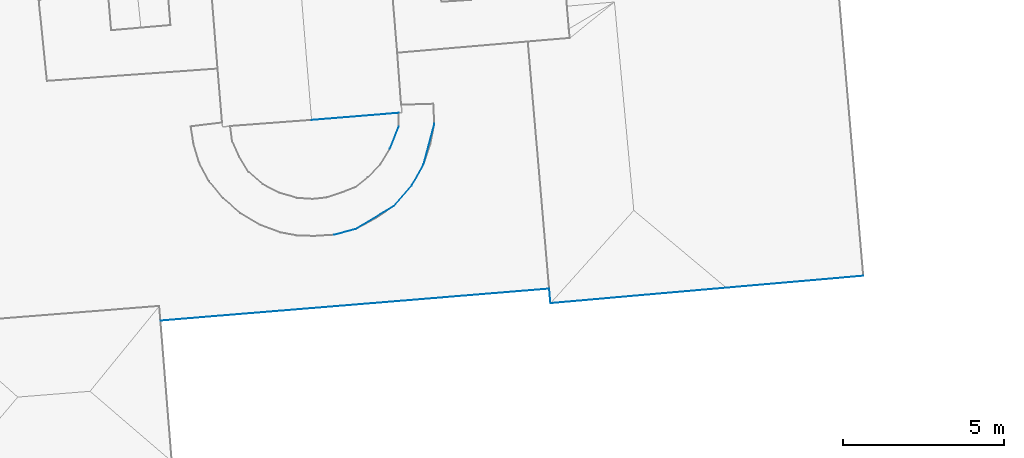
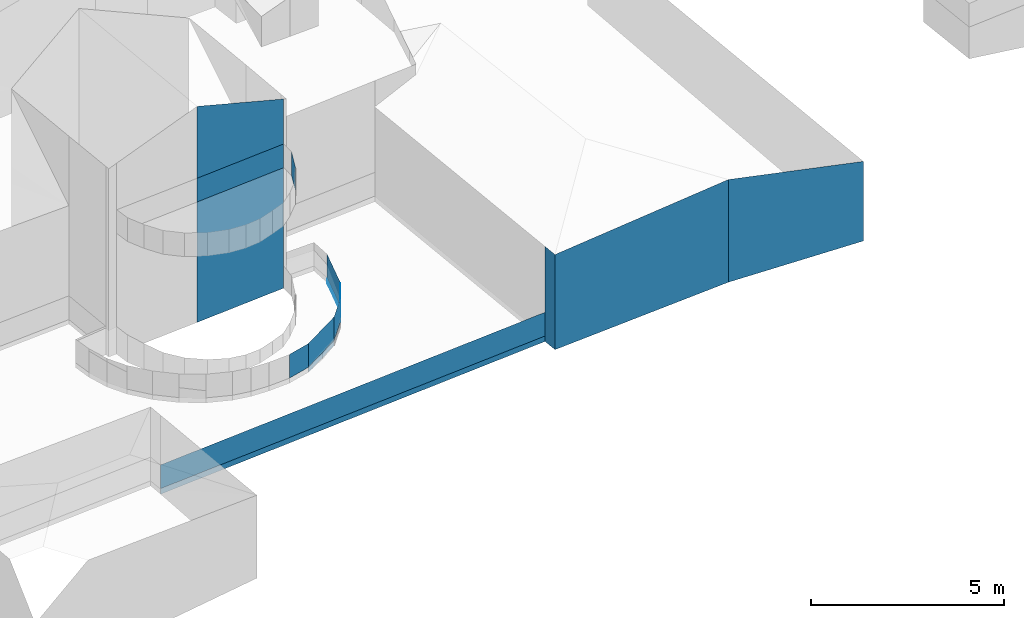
# Not in any storey, part 21 of 59: 23 walls.
"""IFC4 building model written with IfcOpenShell, lengths in metres."""

from ifc_helpers import new_model, entity, si_unit, converted_unit, frame, origin, place, context, subcontext, project, spatial, face_set, surface_model, element, save


model = new_model("IFC4")

# Units and contexts
model_context = context("Model", 3, precision=1e-05, world=origin())
body_context = subcontext(model_context, "Body", "Model", "MODEL_VIEW")
ifc_project = project(units=[converted_unit("PLANEANGLEUNIT", "DEGREE", entity("IfcRatioMeasure", 0.0174532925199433), si_unit("PLANEANGLEUNIT", "RADIAN"), dimensions=[0, 0, 0, 0, 0, 0, 0]), si_unit("AREAUNIT", "SQUARE_METRE"), si_unit("LENGTHUNIT", "METRE")], contexts=[model_context])

# Site, building
site_placement = place(None, origin())
site = spatial("IfcSite", under=ifc_project, at=site_placement, Name="_site")
building_placement = place(site_placement, origin())
building = spatial("IfcBuilding", under=site, at=building_placement, Name="_building")

# Walls
for number, where, name in (
    (1, (0.0, 0.0, 0.0), "Wall"),
    (2, (0.0, 0.0, 0.0), "Wall"),
):
    element("IfcWall", number, at=place(building_placement, frame(where)), inside=building, Name=name, PredefinedType="NOTDEFINED", context=body_context, shape_type="SurfaceModel", body=[
        surface_model("IfcFaceBasedSurfaceModel", [(240.57, 92.02, 229.832), (240.3, 91.34, 229.832), (240.3, 91.34, 230.582), (240.57, 92.02, 230.582)], [face_set([[[0, 1, 2, 3]]])]),
    ])
for number, where, name in (
    (3, (0.0, 0.0, 0.0), "Wall"),
    (4, (0.0, 0.0, 0.0), "Wall"),
):
    element("IfcWall", number, at=place(building_placement, frame(where)), inside=building, Name=name, PredefinedType="NOTDEFINED", context=body_context, shape_type="SurfaceModel", body=[
        surface_model("IfcFaceBasedSurfaceModel", [(240.58, 92.451, 229.819), (237.87, 92.23, 229.819), (237.87, 92.23, 230.569), (240.58, 92.451, 230.569)], [face_set([[[0, 1, 2, 3]]])]),
    ])
wall_1_placement = place(building_placement, origin())
element("IfcWall", 5, at=wall_1_placement, inside=building, Name="Wall", PredefinedType="NOTDEFINED", context=body_context, shape_type="SurfaceModel", body=[
    surface_model("IfcFaceBasedSurfaceModel", [(240.58, 92.451, 231.988), (237.87, 92.23, 232.84), (237.87, 92.23, 226.018), (240.58, 92.451, 226.017)], [face_set([[[0, 1, 2, 3]]])]),
])
wall_2_placement = place(building_placement, origin())
element("IfcWall", 6, at=wall_2_placement, inside=building, Name="Wall", PredefinedType="NOTDEFINED", context=body_context, shape_type="SurfaceModel", body=[
    surface_model("IfcFaceBasedSurfaceModel", [(250.73, 87.029, 229.18), (245.28, 86.551, 229.01), (245.28, 86.551, 226.007), (250.73, 87.029, 225.937)], [face_set([[[0, 1, 2, 3]]])]),
])
wall_3_placement = place(building_placement, origin())
element("IfcWall", 7, at=wall_3_placement, inside=building, Name="Wall", PredefinedType="NOTDEFINED", context=body_context, shape_type="SurfaceModel", body=[
    surface_model("IfcFaceBasedSurfaceModel", [(245.28, 86.551, 229.01), (245.24, 87.0, 229.009), (245.24, 87.0, 226.008), (245.28, 86.551, 226.007)], [face_set([[[0, 1, 2, 3]]])]),
])
wall_4_placement = place(building_placement, origin())
element("IfcWall", 8, at=wall_4_placement, inside=building, Name="Wall", PredefinedType="NOTDEFINED", context=body_context, shape_type="SurfaceModel", body=[
    surface_model("IfcFaceBasedSurfaceModel", [(254.98, 87.4, 228.04), (250.73, 87.029, 229.18), (250.73, 87.029, 225.937), (254.98, 87.4, 225.529)], [face_set([[[0, 1, 2, 3]]])]),
])
for number, where, name in (
    (9, (0.0, 0.0, 0.0), "Wall"),
    (10, (0.0, 0.0, 0.0), "Wall"),
):
    element("IfcWall", number, at=place(building_placement, frame(where)), inside=building, Name=name, PredefinedType="NOTDEFINED", context=body_context, shape_type="SurfaceModel", body=[
        surface_model("IfcFaceBasedSurfaceModel", [(245.24, 87.0, 226.18), (233.188, 86.01, 226.18), (233.188, 86.01, 226.93), (245.24, 87.0, 226.93)], [face_set([[[0, 1, 2, 3]]])]),
    ])
wall_5_placement = place(building_placement, origin())
element("IfcWall", 11, at=wall_5_placement, inside=building, Name="Wall", PredefinedType="NOTDEFINED", context=body_context, shape_type="SurfaceModel", body=[
    surface_model("IfcFaceBasedSurfaceModel", [(239.24, 88.85, 226.17), (238.57, 88.67, 226.17), (238.57, 88.67, 226.92), (239.24, 88.85, 226.92)], [face_set([[[0, 1, 2, 3]]])]),
])
wall_6_placement = place(building_placement, origin())
element("IfcWall", 12, at=wall_6_placement, inside=building, Name="Wall", PredefinedType="NOTDEFINED", context=body_context, shape_type="SurfaceModel", body=[
    surface_model("IfcFaceBasedSurfaceModel", [(240.42, 89.561, 226.17), (239.24, 88.85, 226.17), (239.24, 88.85, 226.92), (240.42, 89.561, 226.92)], [face_set([[[0, 1, 2, 3]]])]),
])
wall_7_placement = place(building_placement, origin())
element("IfcWall", 13, at=wall_7_placement, inside=building, Name="Wall", PredefinedType="NOTDEFINED", context=body_context, shape_type="SurfaceModel", body=[
    surface_model("IfcFaceBasedSurfaceModel", [(240.97, 90.189, 226.17), (240.42, 89.561, 226.17), (240.42, 89.561, 226.92), (240.97, 90.189, 226.92)], [face_set([[[0, 1, 2, 3]]])]),
])
wall_8_placement = place(building_placement, origin())
element("IfcWall", 14, at=wall_8_placement, inside=building, Name="Wall", PredefinedType="NOTDEFINED", context=body_context, shape_type="SurfaceModel", body=[
    surface_model("IfcFaceBasedSurfaceModel", [(241.34, 90.84, 226.17), (240.97, 90.189, 226.17), (240.97, 90.189, 226.92), (241.34, 90.84, 226.92)], [face_set([[[0, 1, 2, 3]]])]),
])
wall_9_placement = place(building_placement, origin())
element("IfcWall", 15, at=wall_9_placement, inside=building, Name="Wall", PredefinedType="NOTDEFINED", context=body_context, shape_type="SurfaceModel", body=[
    surface_model("IfcFaceBasedSurfaceModel", [(241.68, 92.109, 226.17), (241.34, 90.84, 226.17), (241.34, 90.84, 226.92), (241.68, 92.109, 226.92)], [face_set([[[0, 1, 2, 3]]])]),
])
wall_10_placement = place(building_placement, origin())
element("IfcWall", 16, at=wall_10_placement, inside=building, Name="Wall", PredefinedType="NOTDEFINED", context=body_context, shape_type="SurfaceModel", body=[
    surface_model("IfcFaceBasedSurfaceModel", [(239.24, 88.85, 226.17), (238.57, 88.67, 226.17), (238.57, 88.67, 226.92), (239.24, 88.85, 226.92)], [face_set([[[0, 1, 2, 3]]])]),
])
wall_11_placement = place(building_placement, origin())
element("IfcWall", 17, at=wall_11_placement, inside=building, Name="Wall", PredefinedType="NOTDEFINED", context=body_context, shape_type="SurfaceModel", body=[
    surface_model("IfcFaceBasedSurfaceModel", [(240.42, 89.561, 226.17), (239.24, 88.85, 226.17), (239.24, 88.85, 226.92), (240.42, 89.561, 226.92)], [face_set([[[0, 1, 2, 3]]])]),
])
wall_12_placement = place(building_placement, origin())
element("IfcWall", 18, at=wall_12_placement, inside=building, Name="Wall", PredefinedType="NOTDEFINED", context=body_context, shape_type="SurfaceModel", body=[
    surface_model("IfcFaceBasedSurfaceModel", [(240.97, 90.189, 226.17), (240.42, 89.561, 226.17), (240.42, 89.561, 226.92), (240.97, 90.189, 226.92)], [face_set([[[0, 1, 2, 3]]])]),
])
wall_13_placement = place(building_placement, origin())
element("IfcWall", 19, at=wall_13_placement, inside=building, Name="Wall", PredefinedType="NOTDEFINED", context=body_context, shape_type="SurfaceModel", body=[
    surface_model("IfcFaceBasedSurfaceModel", [(241.34, 90.84, 226.17), (240.97, 90.189, 226.17), (240.97, 90.189, 226.92), (241.34, 90.84, 226.92)], [face_set([[[0, 1, 2, 3]]])]),
])
wall_14_placement = place(building_placement, origin())
element("IfcWall", 20, at=wall_14_placement, inside=building, Name="Wall", PredefinedType="NOTDEFINED", context=body_context, shape_type="SurfaceModel", body=[
    surface_model("IfcFaceBasedSurfaceModel", [(241.68, 92.109, 226.17), (241.34, 90.84, 226.17), (241.34, 90.84, 226.92), (241.68, 92.109, 226.92)], [face_set([[[0, 1, 2, 3]]])]),
])
wall_15_placement = place(building_placement, origin())
element("IfcWall", 21, at=wall_15_placement, inside=building, Name="Wall", PredefinedType="NOTDEFINED", context=body_context, shape_type="SurfaceModel", body=[
    surface_model("IfcFaceBasedSurfaceModel", [(241.34, 90.84, 226.17), (241.68, 92.109, 226.17), (241.68, 92.109, 226.016), (241.34, 90.84, 226.015)], [face_set([[[0, 1, 2, 3]]])]),
])
wall_16_placement = place(building_placement, origin())
element("IfcWall", 22, at=wall_16_placement, inside=building, Name="Wall", PredefinedType="NOTDEFINED", context=body_context, shape_type="SurfaceModel", body=[
    surface_model("IfcFaceBasedSurfaceModel", [(245.24, 87.0, 226.18), (233.188, 86.01, 226.18), (233.188, 86.01, 226.005), (245.24, 87.0, 226.008)], [face_set([[[0, 1, 2, 3]]])]),
])
wall_17_placement = place(building_placement, origin())
element("IfcWall", 23, at=wall_17_placement, inside=building, Name="Wall", PredefinedType="NOTDEFINED", context=body_context, shape_type="SurfaceModel", body=[
    surface_model("IfcFaceBasedSurfaceModel", [(239.24, 88.85, 226.17), (240.42, 89.561, 226.17), (240.42, 89.561, 226.013), (239.24, 88.85, 226.011)], [face_set([[[0, 1, 2, 3]]])]),
])

save(model, "model.ifc")
